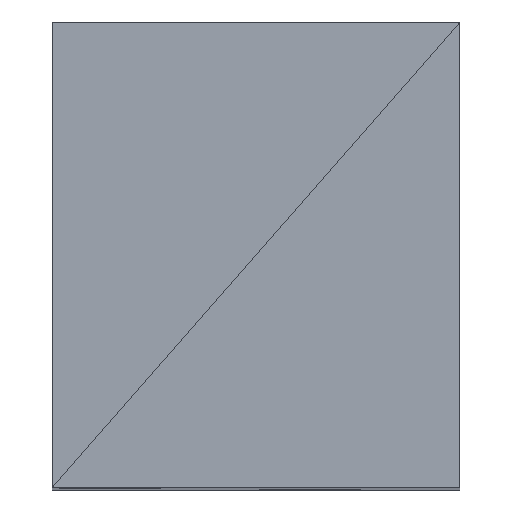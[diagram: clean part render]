
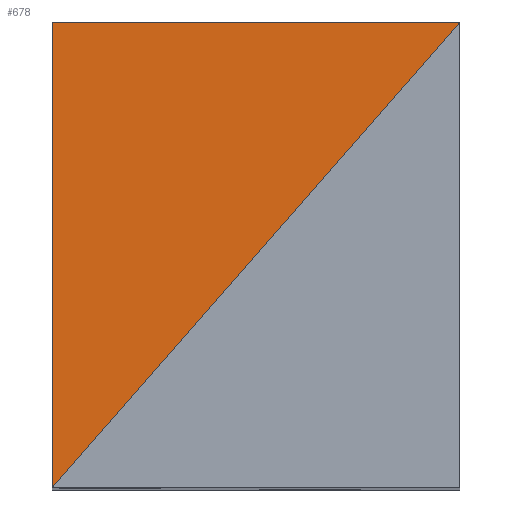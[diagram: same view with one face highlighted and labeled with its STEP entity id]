
A CAD part, top view. The second image highlights one B-rep face of the part: STEP entity #678.
In plain terms, the highlighted planar face has unit normal (0, 0, 1).
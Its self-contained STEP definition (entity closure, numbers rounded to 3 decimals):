
#425 = VERTEX_POINT('',#426);
#426 = CARTESIAN_POINT('',(-0.194,0.302,0.613)
  );
#439 = PLANE('',#440);
#440 = AXIS2_PLACEMENT_3D('',#441,#442,#443);
#441 = CARTESIAN_POINT('',(-0.194,0.299,0.608
    ));
#442 = DIRECTION('',(-1.,0.,0.));
#443 = DIRECTION('',(0.,-1.,0.));
#476 = VERTEX_POINT('',#477);
#477 = CARTESIAN_POINT('',(-0.194,0.298,0.613));
#497 = EDGE_CURVE('',#476,#425,#498,.T.);
#498 = SURFACE_CURVE('',#499,(#503,#510),.PCURVE_S1.);
#499 = LINE('',#500,#501);
#500 = CARTESIAN_POINT('',(-0.194,0.298,0.613));
#501 = VECTOR('',#502,1.);
#502 = DIRECTION('',(0.,1.,0.));
#503 = PCURVE('',#439,#504);
#504 = DEFINITIONAL_REPRESENTATION('',(#505),#509);
#505 = LINE('',#506,#507);
#506 = CARTESIAN_POINT('',(0.001,0.004));
#507 = VECTOR('',#508,1.);
#508 = DIRECTION('',(-1.,0.));
#509 = ( GEOMETRIC_REPRESENTATION_CONTEXT(2) 
PARAMETRIC_REPRESENTATION_CONTEXT() REPRESENTATION_CONTEXT('2D SPACE',''
  ) );
#510 = PCURVE('',#511,#516);
#511 = PLANE('',#512);
#512 = AXIS2_PLACEMENT_3D('',#513,#514,#515);
#513 = CARTESIAN_POINT('',(-0.193,0.3,0.613)
  );
#514 = DIRECTION('',(0.,0.,1.));
#515 = DIRECTION('',(1.,0.,0.));
#516 = DEFINITIONAL_REPRESENTATION('',(#517),#520);
#517 = B_SPLINE_CURVE_WITH_KNOTS('',1,(#518,#519),.UNSPECIFIED.,.F.,.F.,
  (2,2),(0.,0.004),.PIECEWISE_BEZIER_KNOTS.);
#518 = CARTESIAN_POINT('',(-0.001,-0.003));
#519 = CARTESIAN_POINT('',(-0.001,0.001));
#520 = ( GEOMETRIC_REPRESENTATION_CONTEXT(2) 
PARAMETRIC_REPRESENTATION_CONTEXT() REPRESENTATION_CONTEXT('2D SPACE',''
  ) );
#592 = PLANE('',#593);
#593 = AXIS2_PLACEMENT_3D('',#594,#595,#596);
#594 = CARTESIAN_POINT('',(-0.192,0.299,0.613)
  );
#595 = DIRECTION('',(0.,0.,1.));
#596 = DIRECTION('',(0.,1.,0.));
#638 = VERTEX_POINT('',#639);
#639 = CARTESIAN_POINT('',(-0.191,0.302,0.613)
  );
#678 = ADVANCED_FACE('',(#679),#511,.T.);
#679 = FACE_BOUND('',#680,.T.);
#680 = EDGE_LOOP('',(#681,#701,#726));
#681 = ORIENTED_EDGE('',*,*,#682,.T.);
#682 = EDGE_CURVE('',#476,#638,#683,.T.);
#683 = SURFACE_CURVE('',#684,(#688,#695),.PCURVE_S1.);
#684 = LINE('',#685,#686);
#685 = CARTESIAN_POINT('',(-0.194,0.298,0.613));
#686 = VECTOR('',#687,1.);
#687 = DIRECTION('',(0.659,0.753,0.));
#688 = PCURVE('',#511,#689);
#689 = DEFINITIONAL_REPRESENTATION('',(#690),#694);
#690 = LINE('',#691,#692);
#691 = CARTESIAN_POINT('',(-0.001,-0.003));
#692 = VECTOR('',#693,1.);
#693 = DIRECTION('',(0.659,0.753));
#694 = ( GEOMETRIC_REPRESENTATION_CONTEXT(2) 
PARAMETRIC_REPRESENTATION_CONTEXT() REPRESENTATION_CONTEXT('2D SPACE',''
  ) );
#695 = PCURVE('',#592,#696);
#696 = DEFINITIONAL_REPRESENTATION('',(#697),#700);
#697 = B_SPLINE_CURVE_WITH_KNOTS('',1,(#698,#699),.UNSPECIFIED.,.F.,.F.,
  (2,2),(0.,0.005),.PIECEWISE_BEZIER_KNOTS.);
#698 = CARTESIAN_POINT('',(-0.001,0.002));
#699 = CARTESIAN_POINT('',(0.003,-0.001));
#700 = ( GEOMETRIC_REPRESENTATION_CONTEXT(2) 
PARAMETRIC_REPRESENTATION_CONTEXT() REPRESENTATION_CONTEXT('2D SPACE',''
  ) );
#701 = ORIENTED_EDGE('',*,*,#702,.T.);
#702 = EDGE_CURVE('',#638,#425,#703,.T.);
#703 = SURFACE_CURVE('',#704,(#708,#715),.PCURVE_S1.);
#704 = LINE('',#705,#706);
#705 = CARTESIAN_POINT('',(-0.191,0.302,0.613)
  );
#706 = VECTOR('',#707,1.);
#707 = DIRECTION('',(-1.,0.,0.));
#708 = PCURVE('',#511,#709);
#709 = DEFINITIONAL_REPRESENTATION('',(#710),#714);
#710 = LINE('',#711,#712);
#711 = CARTESIAN_POINT('',(0.002,0.001));
#712 = VECTOR('',#713,1.);
#713 = DIRECTION('',(-1.,0.));
#714 = ( GEOMETRIC_REPRESENTATION_CONTEXT(2) 
PARAMETRIC_REPRESENTATION_CONTEXT() REPRESENTATION_CONTEXT('2D SPACE',''
  ) );
#715 = PCURVE('',#716,#721);
#716 = PLANE('',#717);
#717 = AXIS2_PLACEMENT_3D('',#718,#719,#720);
#718 = CARTESIAN_POINT('',(-0.192,0.302,0.612
    ));
#719 = DIRECTION('',(0.,1.,0.));
#720 = DIRECTION('',(0.,0.,1.));
#721 = DEFINITIONAL_REPRESENTATION('',(#722),#725);
#722 = B_SPLINE_CURVE_WITH_KNOTS('',1,(#723,#724),.UNSPECIFIED.,.F.,.F.,
  (2,2),(0.,0.003),.PIECEWISE_BEZIER_KNOTS.);
#723 = CARTESIAN_POINT('',(0.001,0.002));
#724 = CARTESIAN_POINT('',(0.001,-0.002));
#725 = ( GEOMETRIC_REPRESENTATION_CONTEXT(2) 
PARAMETRIC_REPRESENTATION_CONTEXT() REPRESENTATION_CONTEXT('2D SPACE',''
  ) );
#726 = ORIENTED_EDGE('',*,*,#497,.F.);
